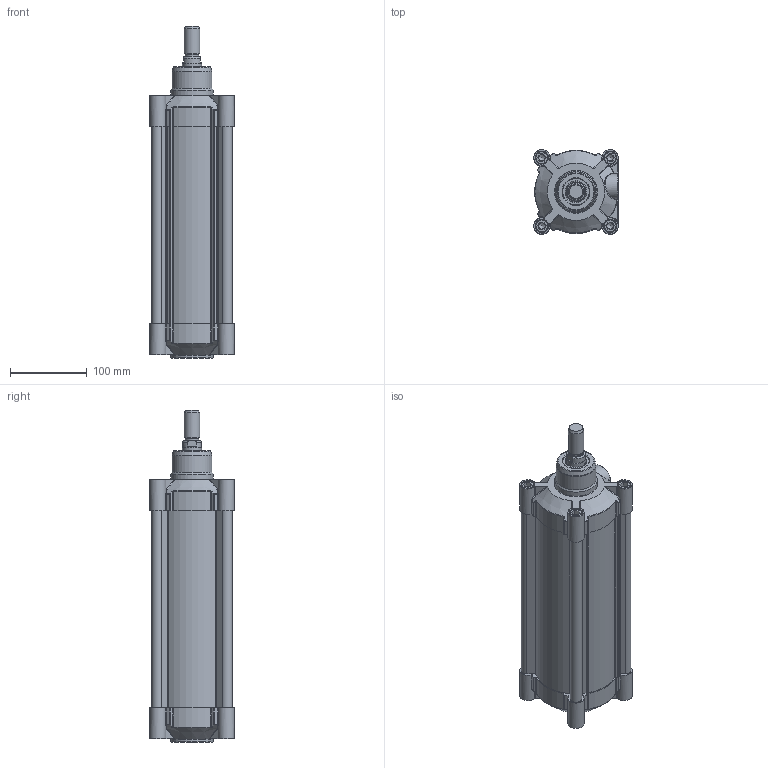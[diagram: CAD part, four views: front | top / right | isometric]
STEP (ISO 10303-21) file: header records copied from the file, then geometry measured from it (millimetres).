
FILE_DESCRIPTION(/* description */ (''),/* implementation_level */ '2;1');
FILE_NAME(/* name */ 'T:\Archivio Inventor\- 00 NUOVI STP PER SITO CON STELO CHE SI MUOVE\SERIE H - U\SERIE HDM\HDM100 - TUBO NUOVO\HDM100.200.GS.M.stp',/* time_stamp */ '2018-08-02T09:31:46+02:00',/* author */ ('carlo.corazza'),/* organization */ (''),/* preprocessor_version */ 'ST-DEVELOPER v16.5',/* originating_system */ 'Autodesk Inventor 2017',/* authorisation */ '');
FILE_SCHEMA (('AUTOMOTIVE_DESIGN { 1 0 10303 214 3 1 1 }'));
Length unit declared in the file: millimetre
Products named in the file (5): HDM100.200.GS.M; TP; TA; STELO-200; CORPO-200
Assembly tree (4 placements, depth 2):
  HDM100.200.GS.M
    TP
    TA
    STELO-200
    CORPO-200
Bounding box: 110 x 110 x 433 mm (x, y, z)
Volume: 1186437.6 mm3; surface area: 485262.5 mm2
Topology: 4 solids, 29 shells, 1355 faces, 3135 edges, 1912 vertices
Faces by surface type: plane 408, cylinder 313, bspline 270, torus 126, cone 122, sphere 116
Full cylindrical faces by diameter (mm): 5 x2, 5.9 x2, 6.5 x2, 7.25 x2, 8.376 x8, 9.4 x4, 10 x8, 10.3 x8, 11.8 x4, 11.9 x2, 12 x4, 16 x9, 16.3 x8, 17 x2, 17.5 x1, 18.631 x2, 20 x1, 24.5 x1, 25 x1, 25.8 x1, 25.962 x1, 30 x1, 31.5 x2, 35 x3, 52 x1, 55 x2, 100 x1
Entity records: 43668 total; most frequent: CARTESIAN_POINT 13702, ORIENTED_EDGE 5710, DIRECTION 5644, EDGE_CURVE 2855, AXIS2_PLACEMENT_3D 2293, VERTEX_POINT 1857, EDGE_LOOP 1690, STYLED_ITEM 1359
